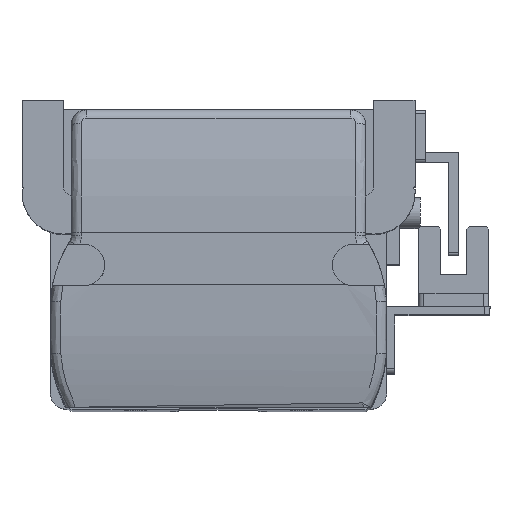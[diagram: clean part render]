
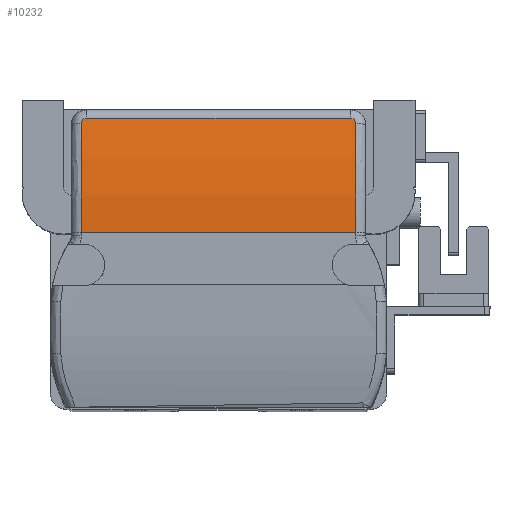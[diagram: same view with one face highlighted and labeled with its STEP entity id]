
A CAD part, top view. The second image highlights one B-rep face of the part: STEP entity #10232.
In plain terms, the highlighted cylindrical face has radius 100 mm (diameter 200 mm), a partial arc.
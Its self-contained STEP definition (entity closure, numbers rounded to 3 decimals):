
#270 = VECTOR ( 'NONE', #4485, 1000. ) ;
#2283 = CARTESIAN_POINT ( 'NONE',  ( -57.923, 24.33, 20.011 ) ) ;
#2462 = DIRECTION ( 'NONE',  ( 0., 1., 0. ) ) ;
#2508 = DIRECTION ( 'NONE',  ( 1., 0., 0. ) ) ;
#2585 = CARTESIAN_POINT ( 'NONE',  ( 15.827, 45.012, 117.849 ) ) ;
#2591 = CARTESIAN_POINT ( 'NONE',  ( 15.962, 45.012, 117.849 ) ) ;
#2623 = CARTESIAN_POINT ( 'NONE',  ( 16.092, 44.985, 117.855 ) ) ;
#2651 = CARTESIAN_POINT ( 'NONE',  ( 16.34, 44.878, 117.877 ) ) ;
#2657 = CARTESIAN_POINT ( 'NONE',  ( 16.447, 44.803, 117.893 ) ) ;
#2680 = CARTESIAN_POINT ( 'NONE',  ( 16.634, 44.609, 117.933 ) ) ;
#2718 = CARTESIAN_POINT ( 'NONE',  ( 16.703, 44.5, 117.956 ) ) ;
#2779 = CARTESIAN_POINT ( 'NONE',  ( 16.827, 43.991, 118.059 ) ) ;
#2950 = VERTEX_POINT ( 'NONE', #14547 ) ;
#2955 = CARTESIAN_POINT ( 'NONE',  ( 16.802, 44.252, 118.006 ) ) ;
#3025 = CARTESIAN_POINT ( 'NONE',  ( 16.827, 44.125, 118.032 ) ) ;
#3062 = VECTOR ( 'NONE', #19320, 1000. ) ;
#4006 = CARTESIAN_POINT ( 'NONE',  ( -57.923, 22.848, 120. ) ) ;
#4284 = VERTEX_POINT ( 'NONE', #29778 ) ;
#4485 = DIRECTION ( 'NONE',  ( 1., 0., 0. ) ) ;
#5273 = CARTESIAN_POINT ( 'NONE',  ( -35.173, 45.012, 117.849 ) ) ;
#5488 = EDGE_CURVE ( 'NONE', #4284, #10051, #23783, .T. ) ;
#6337 = CARTESIAN_POINT ( 'NONE',  ( 16.827, 43.991, 118.059 ) ) ;
#7194 = DIRECTION ( 'NONE',  ( 0., 0., -1. ) ) ;
#7219 = DIRECTION ( 'NONE',  ( -1., 0., 0. ) ) ;
#7247 = CARTESIAN_POINT ( 'NONE',  ( -36.173, 24.33, 20.011 ) ) ;
#8016 = EDGE_CURVE ( 'NONE', #19607, #16971, #12593, .T. ) ;
#9244 = ORIENTED_EDGE ( 'NONE', *, *, #28776, .F. ) ;
#10051 = VERTEX_POINT ( 'NONE', #5273 ) ;
#10232 = ADVANCED_FACE ( 'NONE', ( #18443 ), #23735, .T. ) ;
#10729 = CARTESIAN_POINT ( 'NONE',  ( -35.173, 45.012, 117.849 ) ) ;
#10740 = CARTESIAN_POINT ( 'NONE',  ( -35.307, 45.012, 117.849 ) ) ;
#10769 = CARTESIAN_POINT ( 'NONE',  ( -35.439, 44.984, 117.855 ) ) ;
#10774 = CARTESIAN_POINT ( 'NONE',  ( -35.621, 44.906, 117.871 ) ) ;
#10803 = CARTESIAN_POINT ( 'NONE',  ( -35.679, 44.874, 117.878 ) ) ;
#10832 = CARTESIAN_POINT ( 'NONE',  ( -35.788, 44.799, 117.894 ) ) ;
#10835 = CARTESIAN_POINT ( 'NONE',  ( -35.838, 44.756, 117.902 ) ) ;
#10863 = CARTESIAN_POINT ( 'NONE',  ( -35.93, 44.662, 117.922 ) ) ;
#10869 = CARTESIAN_POINT ( 'NONE',  ( -35.972, 44.609, 117.933 ) ) ;
#10895 = CARTESIAN_POINT ( 'NONE',  ( -36.043, 44.498, 117.956 ) ) ;
#10927 = CARTESIAN_POINT ( 'NONE',  ( -36.074, 44.44, 117.968 ) ) ;
#10935 = CARTESIAN_POINT ( 'NONE',  ( -36.123, 44.317, 117.993 ) ) ;
#10958 = CARTESIAN_POINT ( 'NONE',  ( -36.142, 44.253, 118.006 ) ) ;
#10993 = CARTESIAN_POINT ( 'NONE',  ( -36.167, 44.124, 118.032 ) ) ;
#11159 = CARTESIAN_POINT ( 'NONE',  ( -36.173, 43.991, 118.059 ) ) ;
#11541 = CARTESIAN_POINT ( 'NONE',  ( -36.173, 44.058, 118.046 ) ) ;
#12490 = AXIS2_PLACEMENT_3D ( 'NONE', #7247, #7219, #7194 ) ;
#12593 = B_SPLINE_CURVE_WITH_KNOTS ( 'NONE', 3,
 ( #2779, #3025, #2955, #2718, #2680, #2657, #2651, #2623, #2591, #2585 ),
 .UNSPECIFIED., .F., .F.,
 ( 4, 2, 2, 2, 4 ),
 ( 0., 0.25, 0.5, 0.75, 1. ),
 .UNSPECIFIED. ) ;
#13771 = AXIS2_PLACEMENT_3D ( 'NONE', #2283, #2508, #2462 ) ;
#14328 = EDGE_CURVE ( 'NONE', #10051, #16971, #29411, .T. ) ;
#14547 = CARTESIAN_POINT ( 'NONE',  ( 16.827, 22.848, 120. ) ) ;
#14591 = EDGE_CURVE ( 'NONE', #19607, #2950, #29051, .T. ) ;
#14878 = ORIENTED_EDGE ( 'NONE', *, *, #24158, .T. ) ;
#15518 = DIRECTION ( 'NONE',  ( 0., -1., 0. ) ) ;
#15554 = DIRECTION ( 'NONE',  ( 1., 0., 0. ) ) ;
#15592 = CARTESIAN_POINT ( 'NONE',  ( 16.827, 24.33, 20.011 ) ) ;
#16971 = VERTEX_POINT ( 'NONE', #24240 ) ;
#17439 = ORIENTED_EDGE ( 'NONE', *, *, #14328, .F. ) ;
#17722 = CARTESIAN_POINT ( 'NONE',  ( -36.173, 22.848, 120. ) ) ;
#18443 = FACE_OUTER_BOUND ( 'NONE', #28493, .T. ) ;
#19226 = CARTESIAN_POINT ( 'NONE',  ( -9.673, 45.012, 117.849 ) ) ;
#19320 = DIRECTION ( 'NONE',  ( 1., 0., 0. ) ) ;
#19607 = VERTEX_POINT ( 'NONE', #6337 ) ;
#21167 = VERTEX_POINT ( 'NONE', #17722 ) ;
#22772 = ORIENTED_EDGE ( 'NONE', *, *, #5488, .F. ) ;
#23621 = AXIS2_PLACEMENT_3D ( 'NONE', #15592, #15554, #15518 ) ;
#23735 = CYLINDRICAL_SURFACE ( 'NONE', #13771, 100. ) ;
#23783 = B_SPLINE_CURVE_WITH_KNOTS ( 'NONE', 3,
 ( #11159, #11541, #10993, #10958, #10935, #10927, #10895, #10869, #10863, #10835, #10832, #10803, #10774, #10769, #10740, #10729 ),
 .UNSPECIFIED., .F., .F.,
 ( 4, 2, 2, 2, 2, 2, 2, 4 ),
 ( 0., 0.125, 0.25, 0.375, 0.5, 0.625, 0.75, 1. ),
 .UNSPECIFIED. ) ;
#24158 = EDGE_CURVE ( 'NONE', #21167, #2950, #29691, .T. ) ;
#24240 = CARTESIAN_POINT ( 'NONE',  ( 15.827, 45.012, 117.849 ) ) ;
#25292 = ORIENTED_EDGE ( 'NONE', *, *, #14591, .F. ) ;
#28011 = CIRCLE ( 'NONE', #12490, 100. ) ;
#28493 = EDGE_LOOP ( 'NONE', ( #22772, #9244, #14878, #25292, #28764, #17439 ) ) ;
#28764 = ORIENTED_EDGE ( 'NONE', *, *, #8016, .T. ) ;
#28776 = EDGE_CURVE ( 'NONE', #21167, #4284, #28011, .T. ) ;
#29051 = CIRCLE ( 'NONE', #23621, 100. ) ;
#29411 = LINE ( 'NONE', #19226, #3062 ) ;
#29691 = LINE ( 'NONE', #4006, #270 ) ;
#29778 = CARTESIAN_POINT ( 'NONE',  ( -36.173, 43.991, 118.059 ) ) ;
